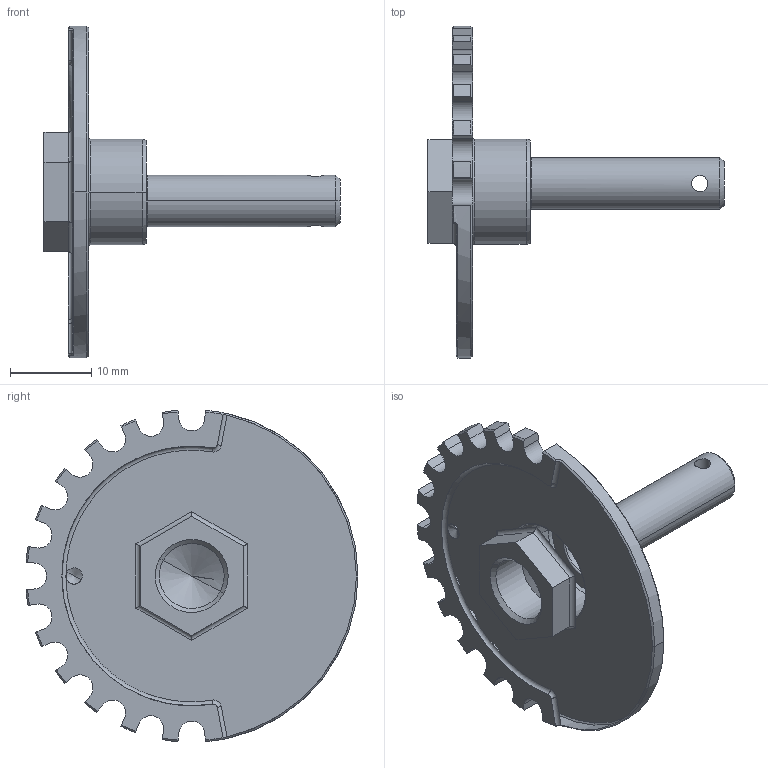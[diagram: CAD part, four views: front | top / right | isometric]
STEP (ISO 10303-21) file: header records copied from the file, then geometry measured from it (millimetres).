
FILE_DESCRIPTION(('CATIA V5 STEP Exchange'),'2;1');
FILE_NAME('C:\Users\ng55cb5\Desktop\Digital_Costing_Data\Output_Data\CATParts\V5237758620000.stp','2017-11-20T15:37:13+00:00',('none'),('none'),'CATIA Version 5 Release 21 SP 2 (IN-10)','CATIA V5 STEP AP203','none');
FILE_SCHEMA(('CONFIG_CONTROL_DESIGN'));
Length unit declared in the file: millimetre
Products named in the file (1): V5237758620000
Bounding box: 36.5 x 40.93 x 40.86 mm (x, y, z)
Volume: 4426.6 mm3; surface area: 3911.9 mm2
Topology: 1 solids, 1 shells, 132 faces, 359 edges, 229 vertices
Faces by surface type: cylinder 45, cone 40, plane 38, torus 7, bspline 2
Entity records: 4115 total; most frequent: CARTESIAN_POINT 1098, ORIENTED_EDGE 710, DIRECTION 455, EDGE_CURVE 355, VERTEX_POINT 229, AXIS2_PLACEMENT_3D 214, VECTOR 157, LINE 157
